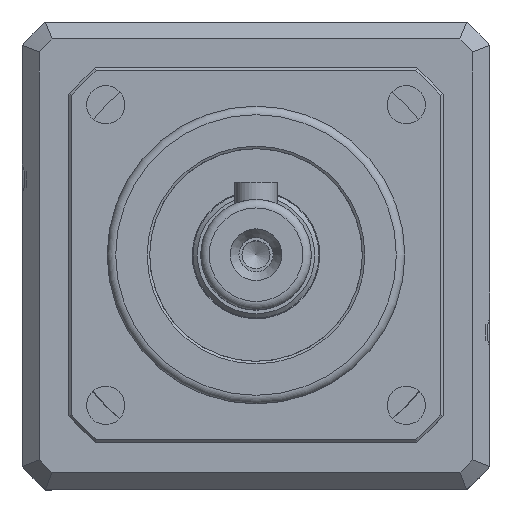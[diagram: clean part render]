
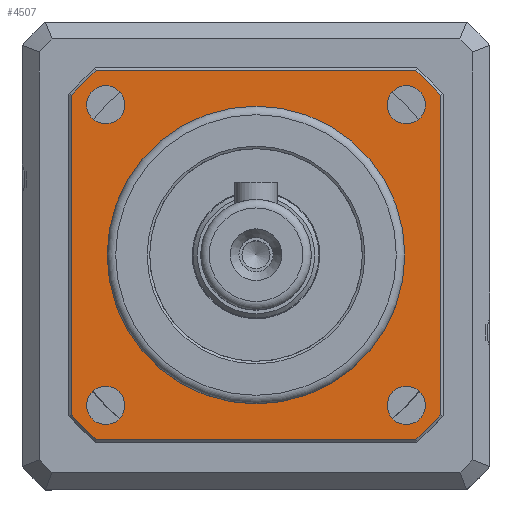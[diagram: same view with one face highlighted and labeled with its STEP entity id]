
A CAD part, top view. The second image highlights one B-rep face of the part: STEP entity #4507.
In plain terms, the highlighted planar face has unit normal (0, 0, 1).
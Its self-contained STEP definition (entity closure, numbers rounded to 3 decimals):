
#3001=CARTESIAN_POINT('',(-15.428,17.678,0.0));
#3002=VERTEX_POINT('',#3001);
#3003=CARTESIAN_POINT('',(-17.678,17.678,0.0));
#3004=DIRECTION('',(0.0,0.0,1.0));
#3005=DIRECTION('',(1.0,0.0,0.0));
#3006=AXIS2_PLACEMENT_3D('',#3003,#3004,#3005);
#3007=CIRCLE('',#3006,2.25);
#3008=EDGE_CURVE('',#3002,#3002,#3007,.T.);
#3029=CARTESIAN_POINT('',(-15.428,-17.678,0.0));
#3030=VERTEX_POINT('',#3029);
#3031=CARTESIAN_POINT('',(-17.678,-17.678,0.0));
#3032=DIRECTION('',(0.0,0.0,1.0));
#3033=DIRECTION('',(1.0,0.0,0.0));
#3034=AXIS2_PLACEMENT_3D('',#3031,#3032,#3033);
#3035=CIRCLE('',#3034,2.25);
#3036=EDGE_CURVE('',#3030,#3030,#3035,.T.);
#3057=CARTESIAN_POINT('',(19.928,-17.678,0.0));
#3058=VERTEX_POINT('',#3057);
#3059=CARTESIAN_POINT('',(17.678,-17.678,0.0));
#3060=DIRECTION('',(0.0,0.0,1.0));
#3061=DIRECTION('',(1.0,0.0,0.0));
#3062=AXIS2_PLACEMENT_3D('',#3059,#3060,#3061);
#3063=CIRCLE('',#3062,2.25);
#3064=EDGE_CURVE('',#3058,#3058,#3063,.T.);
#3085=CARTESIAN_POINT('',(19.928,17.678,0.0));
#3086=VERTEX_POINT('',#3085);
#3087=CARTESIAN_POINT('',(17.678,17.678,0.0));
#3088=DIRECTION('',(0.0,0.0,1.0));
#3089=DIRECTION('',(1.0,0.0,0.0));
#3090=AXIS2_PLACEMENT_3D('',#3087,#3088,#3089);
#3091=CIRCLE('',#3090,2.25);
#3092=EDGE_CURVE('',#3086,#3086,#3091,.T.);
#3105=CARTESIAN_POINT('',(-17.5,0.0,0.0));
#3106=VERTEX_POINT('',#3105);
#3107=CARTESIAN_POINT('',(0.0,0.0,0.0));
#3108=DIRECTION('',(0.0,0.0,1.0));
#3109=DIRECTION('',(1.0,0.0,0.0));
#3110=AXIS2_PLACEMENT_3D('',#3107,#3108,#3109);
#3111=CIRCLE('',#3110,17.5);
#3112=EDGE_CURVE('',#3106,#3106,#3111,.T.);
#4417=CARTESIAN_POINT('',(22.0,-22.,0.0));
#4418=DIRECTION('',(0.0,0.0,1.0));
#4419=DIRECTION('',(1.0,0.0,0.0));
#4420=AXIS2_PLACEMENT_3D('',#4417,#4418,#4419);
#4421=PLANE('',#4420);
#4422=CARTESIAN_POINT('',(-18.783,-21.7,0.0));
#4423=VERTEX_POINT('',#4422);
#4424=CARTESIAN_POINT('',(18.783,-21.7,0.0));
#4425=VERTEX_POINT('',#4424);
#4426=CARTESIAN_POINT('',(-18.783,-21.7,0.0));
#4427=DIRECTION('',(1.0,0.0,0.0));
#4428=VECTOR('',#4427,37.566);
#4429=LINE('',#4426,#4428);
#4430=EDGE_CURVE('',#4423,#4425,#4429,.T.);
#4431=ORIENTED_EDGE('',*,*,#4430,.T.);
#4432=CARTESIAN_POINT('',(21.7,-18.783,0.0));
#4433=VERTEX_POINT('',#4432);
#4434=CARTESIAN_POINT('',(0.0,0.0,0.0));
#4435=DIRECTION('',(0.0,0.0,1.0));
#4436=DIRECTION('',(1.0,0.0,0.0));
#4437=AXIS2_PLACEMENT_3D('',#4434,#4435,#4436);
#4438=CIRCLE('',#4437,28.7);
#4439=EDGE_CURVE('',#4425,#4433,#4438,.T.);
#4440=ORIENTED_EDGE('',*,*,#4439,.T.);
#4441=CARTESIAN_POINT('',(21.7,18.783,0.0));
#4442=VERTEX_POINT('',#4441);
#4443=CARTESIAN_POINT('',(21.7,-18.783,0.0));
#4444=DIRECTION('',(0.0,1.0,0.0));
#4445=VECTOR('',#4444,37.566);
#4446=LINE('',#4443,#4445);
#4447=EDGE_CURVE('',#4433,#4442,#4446,.T.);
#4448=ORIENTED_EDGE('',*,*,#4447,.T.);
#4449=CARTESIAN_POINT('',(18.783,21.7,0.0));
#4450=VERTEX_POINT('',#4449);
#4451=CARTESIAN_POINT('',(0.0,0.0,0.0));
#4452=DIRECTION('',(0.0,0.0,1.0));
#4453=DIRECTION('',(1.0,0.0,0.0));
#4454=AXIS2_PLACEMENT_3D('',#4451,#4452,#4453);
#4455=CIRCLE('',#4454,28.7);
#4456=EDGE_CURVE('',#4442,#4450,#4455,.T.);
#4457=ORIENTED_EDGE('',*,*,#4456,.T.);
#4458=CARTESIAN_POINT('',(-18.783,21.7,0.0));
#4459=VERTEX_POINT('',#4458);
#4460=CARTESIAN_POINT('',(18.783,21.7,0.0));
#4461=DIRECTION('',(-1.0,0.0,0.0));
#4462=VECTOR('',#4461,37.566);
#4463=LINE('',#4460,#4462);
#4464=EDGE_CURVE('',#4450,#4459,#4463,.T.);
#4465=ORIENTED_EDGE('',*,*,#4464,.T.);
#4466=CARTESIAN_POINT('',(-21.7,18.783,0.0));
#4467=VERTEX_POINT('',#4466);
#4468=CARTESIAN_POINT('',(0.0,0.0,0.0));
#4469=DIRECTION('',(0.0,0.0,1.0));
#4470=DIRECTION('',(1.0,0.0,0.0));
#4471=AXIS2_PLACEMENT_3D('',#4468,#4469,#4470);
#4472=CIRCLE('',#4471,28.7);
#4473=EDGE_CURVE('',#4459,#4467,#4472,.T.);
#4474=ORIENTED_EDGE('',*,*,#4473,.T.);
#4475=CARTESIAN_POINT('',(-21.7,-18.783,0.0));
#4476=VERTEX_POINT('',#4475);
#4477=CARTESIAN_POINT('',(-21.7,18.783,0.0));
#4478=DIRECTION('',(0.0,-1.0,0.0));
#4479=VECTOR('',#4478,37.566);
#4480=LINE('',#4477,#4479);
#4481=EDGE_CURVE('',#4467,#4476,#4480,.T.);
#4482=ORIENTED_EDGE('',*,*,#4481,.T.);
#4483=CARTESIAN_POINT('',(0.0,0.0,0.0));
#4484=DIRECTION('',(0.0,0.0,1.0));
#4485=DIRECTION('',(1.0,0.0,0.0));
#4486=AXIS2_PLACEMENT_3D('',#4483,#4484,#4485);
#4487=CIRCLE('',#4486,28.7);
#4488=EDGE_CURVE('',#4476,#4423,#4487,.T.);
#4489=ORIENTED_EDGE('',*,*,#4488,.T.);
#4490=EDGE_LOOP('',(#4431,#4440,#4448,#4457,#4465,#4474,#4482,#4489));
#4491=FACE_OUTER_BOUND('',#4490,.T.);
#4492=ORIENTED_EDGE('',*,*,#3008,.F.);
#4493=EDGE_LOOP('',(#4492));
#4494=FACE_BOUND('',#4493,.T.);
#4495=ORIENTED_EDGE('',*,*,#3036,.F.);
#4496=EDGE_LOOP('',(#4495));
#4497=FACE_BOUND('',#4496,.T.);
#4498=ORIENTED_EDGE('',*,*,#3064,.F.);
#4499=EDGE_LOOP('',(#4498));
#4500=FACE_BOUND('',#4499,.T.);
#4501=ORIENTED_EDGE('',*,*,#3092,.F.);
#4502=EDGE_LOOP('',(#4501));
#4503=FACE_BOUND('',#4502,.T.);
#4504=ORIENTED_EDGE('',*,*,#3112,.F.);
#4505=EDGE_LOOP('',(#4504));
#4506=FACE_BOUND('',#4505,.T.);
#4507=ADVANCED_FACE('',(#4491,#4494,#4497,#4500,#4503,#4506),#4421,.T.);
